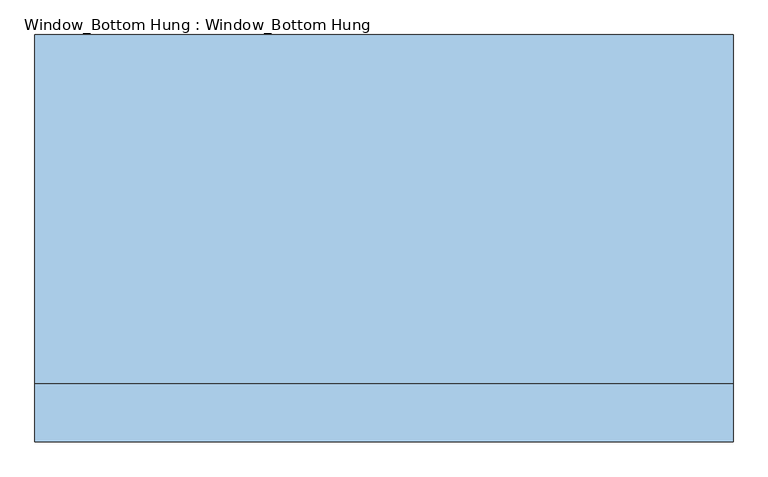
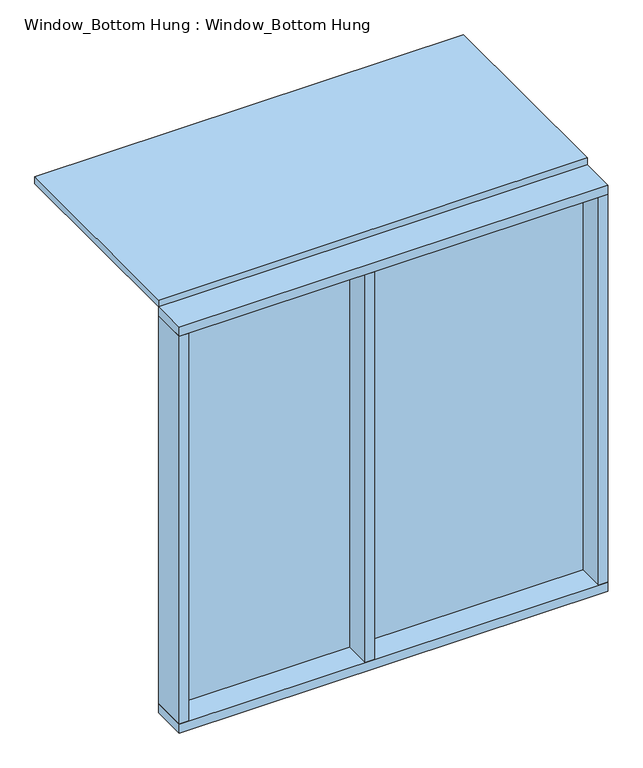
"""IFC4 building model written with IfcOpenShell, lengths in millimetres: window geometry, Window_Bottom Hung : Window_Bottom Hung."""

from ifc_helpers import new_model, si_unit, frame, origin, place, context, project, spatial, polyline, outline, extrude, source, transform, mapped, element, save


def window_bottom_hung_window_bottom_hung_09912109(model_context):
    return source(origin(), model_context, "Body", "SweptSolid", [
        extrude(outline(polyline([(860.0, 38.0), (-80.0, 38.0), (-80.0, 50.0), (860.0, 50.0), (860.0, 38.0)])), frame((0.0, 0.0, 1040.0), z_axis=(0.0, 0.0, 1.0), x_axis=(1.0, 0.0, 0.0)), (0.0, 0.0, 1.0), 1720.0),
        extrude(outline(polyline([(-120.0, 38.0), (-860.0, 38.0), (-860.0, 50.0), (-120.0, 50.0), (-120.0, 38.0)])), frame((0.0, 0.0, 1040.0), z_axis=(0.0, 0.0, 1.0), x_axis=(1.0, 0.0, 0.0)), (0.0, 0.0, 1.0), 1720.0),
        extrude(outline(polyline([(900.0, 75.0), (900.0, -75.0), (-900.0, -75.0), (-900.0, 75.0), (900.0, 75.0)])), frame((0.0, 0.0, 2760.0), z_axis=(0.0, 0.0, 1.0), x_axis=(1.0, 0.0, 0.0)), (0.0, 0.0, 1.0), 40.0),
        extrude(outline(polyline([(900.0, 75.0), (900.0, -75.0), (-900.0, -75.0), (-900.0, 75.0), (900.0, 75.0)])), frame((0.0, 0.0, 1000.0), z_axis=(0.0, 0.0, 1.0), x_axis=(1.0, 0.0, 0.0)), (0.0, 0.0, 1.0), 40.0),
        extrude(outline(polyline([(-120.0, -75.0), (-120.0, 75.0), (-80.0, 75.0), (-80.0, -75.0), (-120.0, -75.0)])), frame((0.0, 0.0, 1040.0), z_axis=(0.0, 0.0, 1.0), x_axis=(1.0, 0.0, 0.0)), (0.0, 0.0, 1.0), 1720.0),
        extrude(outline(polyline([(-860.0, -75.0), (-900.0, -75.0), (-900.0, 75.0), (-860.0, 75.0), (-860.0, -75.0)])), frame((0.0, 0.0, 1040.0), z_axis=(0.0, 0.0, 1.0), x_axis=(1.0, 0.0, 0.0)), (0.0, 0.0, 1.0), 1720.0),
        extrude(outline(polyline([(860.0, -75.0), (860.0, 75.0), (900.0, 75.0), (900.0, -75.0), (860.0, -75.0)])), frame((0.0, 0.0, 1040.0), z_axis=(0.0, 0.0, 1.0), x_axis=(1.0, 0.0, 0.0)), (0.0, 0.0, 1.0), 1720.0),
        extrude(outline(polyline([(900.0, 75.0), (-900.0, 75.0), (-900.0, 975.0), (900.0, 975.0), (900.0, 75.0)])), frame((0.0, 0.0, 2800.0), z_axis=(0.0, 0.0, 1.0), x_axis=(1.0, 0.0, 0.0)), (0.0, 0.0, 1.0), 30.0),
    ])


if __name__ == "__main__":
    model = new_model("IFC4")
    model_context = context("Model", 3, world=origin())
    ifc_project = project(units=[si_unit("LENGTHUNIT", "METRE", prefix="MILLI")], contexts=[model_context])
    site = spatial("IfcSite", under=ifc_project)
    building = spatial("IfcBuilding", under=site)
    placement = place(None, origin())
    window_bottom_hung_window_bottom_hung_shape = window_bottom_hung_window_bottom_hung_09912109(model_context)
    element("IfcWindow", 1, ObjectType="Window_Bottom Hung : Window_Bottom Hung", at=placement, inside=building, context=model_context, shape_type="MappedRepresentation", body=[
        mapped(window_bottom_hung_window_bottom_hung_shape, transform((0.0, 0.0, 0.0), x_axis=(1.0, 0.0, 0.0), y_axis=(0.0, 1.0, 0.0), z_axis=(0.0, 0.0, 1.0))),
    ])
    save(model, "model.ifc")
